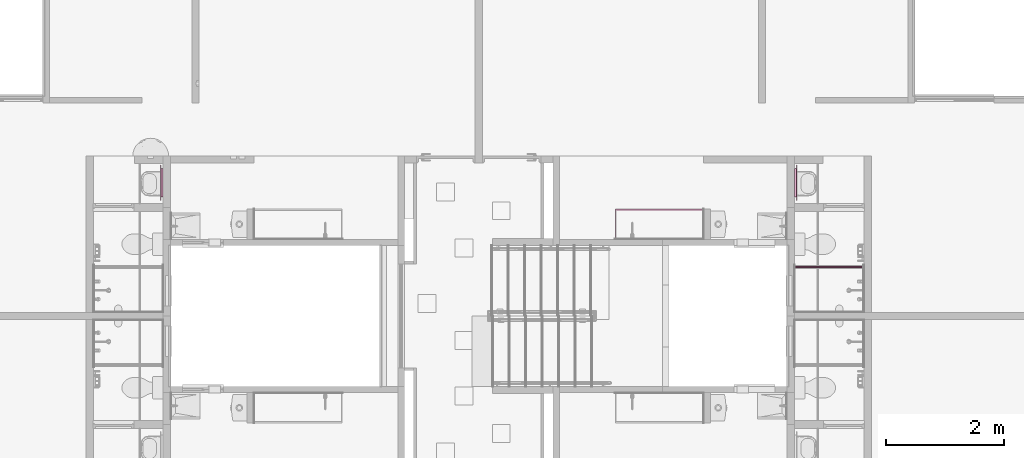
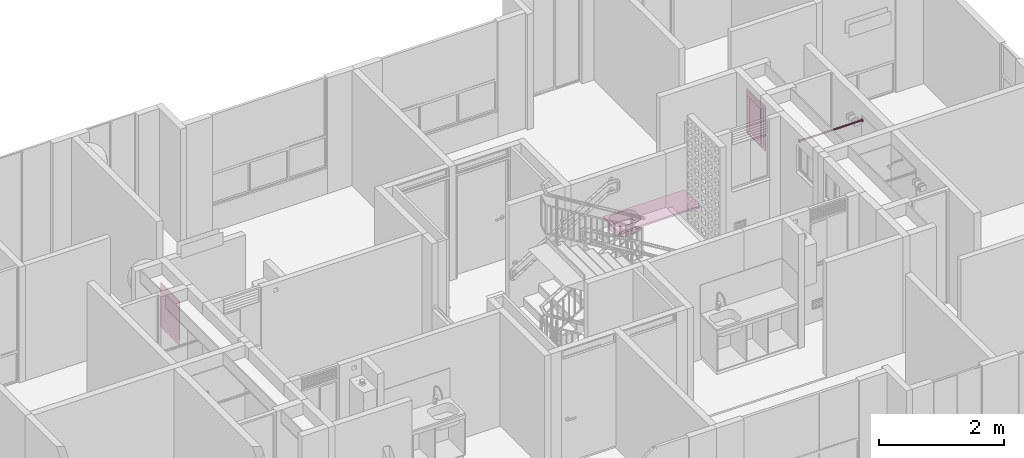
# One storey, part 46 of 51: 4 furniture elements.
"""IFC4 building model written with IfcOpenShell, lengths in metres."""

from ifc_helpers import new_model, entity, si_unit, converted_unit, derived_unit, direction, frame, origin, place, context, subcontext, project, spatial, arc, indexed_curve, outline, extrude, polygons, source, transform, mapped, material, constituent, constituent_set, type_object, type_shapes, element, save


model = new_model("IFC4")

# Units and contexts
model_context = context("Model", 3, precision=1e-05, world=origin(), true_north=direction((6.123031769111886e-17, 1.0)))
body_context = subcontext(model_context, "Body", "Model", "MODEL_VIEW")
ifc_project = project(units=[si_unit("LENGTHUNIT", "METRE"), si_unit("AREAUNIT", "SQUARE_METRE"), si_unit("VOLUMEUNIT", "CUBIC_METRE"), converted_unit("PLANEANGLEUNIT", "DEGREE", entity("IfcRatioMeasure", 0.017453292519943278), si_unit("PLANEANGLEUNIT", "RADIAN"), dimensions=[0, 0, 0, 0, 0, 0, 0]), si_unit("MASSUNIT", "GRAM", prefix="KILO"), derived_unit("MASSDENSITYUNIT", [(si_unit("MASSUNIT", "GRAM", prefix="KILO"), 1), (si_unit("LENGTHUNIT", "METRE"), -3)]), derived_unit("IONCONCENTRATIONUNIT", [(si_unit("MASSUNIT", "GRAM", prefix="KILO"), 1), (si_unit("LENGTHUNIT", "METRE"), -3)]), derived_unit("MOMENTOFINERTIAUNIT", [(si_unit("LENGTHUNIT", "METRE"), 4)]), si_unit("TIMEUNIT", "SECOND"), si_unit("FREQUENCYUNIT", "HERTZ"), si_unit("THERMODYNAMICTEMPERATUREUNIT", "DEGREE_CELSIUS"), derived_unit("THERMALTRANSMITTANCEUNIT", [(si_unit("MASSUNIT", "GRAM", prefix="KILO"), 1), (si_unit("THERMODYNAMICTEMPERATUREUNIT", "KELVIN"), -1), (si_unit("TIMEUNIT", "SECOND"), -3)]), derived_unit("THERMALCONDUCTANCEUNIT", [(si_unit("MASSUNIT", "GRAM", prefix="KILO"), 1), (si_unit("THERMODYNAMICTEMPERATUREUNIT", "KELVIN"), -1), (si_unit("TIMEUNIT", "SECOND"), -3), (si_unit("LENGTHUNIT", "METRE"), 1)]), derived_unit("VOLUMETRICFLOWRATEUNIT", [(si_unit("LENGTHUNIT", "METRE"), 3), (si_unit("TIMEUNIT", "SECOND"), -1)]), derived_unit("MASSFLOWRATEUNIT", [(si_unit("MASSUNIT", "GRAM", prefix="KILO"), 1), (si_unit("TIMEUNIT", "SECOND"), -1)]), derived_unit("ROTATIONALFREQUENCYUNIT", [(si_unit("TIMEUNIT", "SECOND"), -1)]), si_unit("ELECTRICCURRENTUNIT", "AMPERE"), si_unit("ELECTRICVOLTAGEUNIT", "VOLT"), si_unit("POWERUNIT", "WATT"), si_unit("FORCEUNIT", "NEWTON", prefix="KILO"), si_unit("ILLUMINANCEUNIT", "LUX"), si_unit("LUMINOUSFLUXUNIT", "LUMEN"), si_unit("LUMINOUSINTENSITYUNIT", "CANDELA"), derived_unit("USERDEFINED", [(si_unit("MASSUNIT", "GRAM", prefix="KILO"), -1), (si_unit("LENGTHUNIT", "METRE"), -2), (si_unit("TIMEUNIT", "SECOND"), 3), (si_unit("LUMINOUSFLUXUNIT", "LUMEN"), 1)]), derived_unit("USERDEFINED", [(si_unit("MASSUNIT", "GRAM", prefix="KILO"), 1), (si_unit("TIMEUNIT", "SECOND"), -3), (si_unit("LENGTHUNIT", "METRE"), 3), (si_unit("ELECTRICCURRENTUNIT", "AMPERE"), -2)]), derived_unit("SOUNDPOWERUNIT", [(si_unit("MASSUNIT", "GRAM", prefix="KILO"), 1), (si_unit("TIMEUNIT", "SECOND"), -3), (si_unit("LENGTHUNIT", "METRE"), 2)]), derived_unit("SOUNDPRESSUREUNIT", [(si_unit("MASSUNIT", "GRAM", prefix="KILO"), 1), (si_unit("LENGTHUNIT", "METRE"), -1), (si_unit("TIMEUNIT", "SECOND"), -2)]), derived_unit("LINEARVELOCITYUNIT", [(si_unit("LENGTHUNIT", "METRE"), 1), (si_unit("TIMEUNIT", "SECOND"), -1)]), si_unit("PRESSUREUNIT", "PASCAL"), derived_unit("USERDEFINED", [(si_unit("MASSUNIT", "GRAM", prefix="KILO"), 1), (si_unit("LENGTHUNIT", "METRE"), -2), (si_unit("TIMEUNIT", "SECOND"), -2)]), derived_unit("LINEARFORCEUNIT", [(si_unit("MASSUNIT", "GRAM", prefix="KILO"), 1), (si_unit("TIMEUNIT", "SECOND"), -2)]), derived_unit("PLANARFORCEUNIT", [(si_unit("MASSUNIT", "GRAM", prefix="KILO"), 1), (si_unit("LENGTHUNIT", "METRE"), -1), (si_unit("TIMEUNIT", "SECOND"), -2)]), derived_unit("SPECIFICHEATCAPACITYUNIT", [(si_unit("THERMODYNAMICTEMPERATUREUNIT", "KELVIN"), -1), (si_unit("LENGTHUNIT", "METRE"), 2), (si_unit("TIMEUNIT", "SECOND"), -2)]), derived_unit("HEATINGVALUEUNIT", [(si_unit("LENGTHUNIT", "METRE"), 2), (si_unit("TIMEUNIT", "SECOND"), -2)]), derived_unit("VAPORPERMEABILITYUNIT", [(si_unit("LENGTHUNIT", "METRE"), -1), (si_unit("TIMEUNIT", "SECOND"), 1)]), derived_unit("DYNAMICVISCOSITYUNIT", [(si_unit("MASSUNIT", "GRAM", prefix="KILO"), 1), (si_unit("TIMEUNIT", "SECOND"), -1), (si_unit("LENGTHUNIT", "METRE"), -1)]), derived_unit("THERMALEXPANSIONCOEFFICIENTUNIT", [(si_unit("THERMODYNAMICTEMPERATUREUNIT", "KELVIN"), -1)]), derived_unit("MODULUSOFELASTICITYUNIT", [(si_unit("MASSUNIT", "GRAM", prefix="KILO"), 1), (si_unit("LENGTHUNIT", "METRE"), -1), (si_unit("TIMEUNIT", "SECOND"), -2)]), derived_unit("ISOTHERMALMOISTURECAPACITYUNIT", [(si_unit("LENGTHUNIT", "METRE"), 3), (si_unit("MASSUNIT", "GRAM", prefix="KILO"), -1)]), derived_unit("MOISTUREDIFFUSIVITYUNIT", [(si_unit("TIMEUNIT", "SECOND"), -1), (si_unit("LENGTHUNIT", "METRE"), 2)])], contexts=[model_context])

# Site, building, storey
site_placement = place(None, origin())
site = spatial("IfcSite", under=ifc_project, at=site_placement, Name="Default", CompositionType="ELEMENT")
building_placement = place(site_placement, origin())
building = spatial("IfcBuilding", under=site, at=building_placement, CompositionType="ELEMENT")
storey_placement = place(building_placement, frame((0.0, 0.0, 2.350000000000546)))
storey = spatial("IfcBuildingStorey", under=building, at=storey_placement, Name="Nivel 2", CompositionType="ELEMENT", Elevation=2.350000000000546)

# Furniture
ifc_material_1 = material(Name="Aluminio", Category="Materials")
ifc_constituent_1 = constituent(ifc_material_1, Name="Aluminio", Category="Materials")
ifc_material_2 = material(Name="ESPEJO", Category="Materials")
ifc_constituent_2 = constituent(ifc_material_2, Name="ESPEJO", Category="Materials")
ifc_constituent_set_1 = constituent_set(constituents=[ifc_constituent_1, ifc_constituent_2])
ifc_constituent_3 = constituent(ifc_material_1, Name="Aluminio", Category="Materials")
ifc_constituent_4 = constituent(ifc_material_2, Name="ESPEJO", Category="Materials")
ifc_constituent_set_2 = constituent_set(constituents=[ifc_constituent_3, ifc_constituent_4])
furniture_type_1 = type_object("IfcFurnitureType", Name="E2050 - Espejo:E2050 - 0.60m x 0.87m - Espejo", AssemblyPlace="NOTDEFINED", PredefinedType="NOTDEFINED", material=ifc_constituent_set_2)
shared_shape_1 = source(origin(), body_context, "Body", "SweptSolid", [
    extrude(outline(indexed_curve([(-0.23999999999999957, -0.3749999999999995), (0.2399999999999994, -0.3749999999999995), (0.2399999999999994, 0.37499999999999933), (-0.23999999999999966, 0.3749999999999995), (-0.23999999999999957, -0.3749999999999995)], self_intersect=False), holes=[indexed_curve([(0.2149999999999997, -0.34999999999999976), (-0.21499999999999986, -0.34999999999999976), (-0.21499999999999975, 0.34999999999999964), (0.2149999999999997, 0.34999999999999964), (0.2149999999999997, -0.34999999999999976)], self_intersect=False)]), frame((0.12499999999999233, 0.062499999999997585, 1.485), z_axis=(0.0, 1.0, 0.0), x_axis=(1.0, 0.0, 0.0)), (0.0, 0.0, 1.0), 0.037500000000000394),
    extrude(outline(indexed_curve([(-0.00350000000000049, -0.30000000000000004), (0.00350000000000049, -0.30000000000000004), (0.00350000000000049, 0.30000000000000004), (-0.00350000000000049, 0.30000000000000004), (-0.00350000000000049, -0.30000000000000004)], self_intersect=False)), frame((0.1249999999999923, 0.10350000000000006, 1.05), z_axis=(0.0, 0.0, 1.0), x_axis=(0.0, 1.0, 0.0)), (0.0, 0.0, 1.0), 0.87),
])
type_shapes(furniture_type_1, [shared_shape_1])
furniture_1_placement = place(storey_placement, frame((14.620000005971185, -4.035000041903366, -0.020000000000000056), z_axis=(0.0, 0.0, 1.0), x_axis=(0.0, -1.0, 0.0)))
element("IfcFurniture", 1, at=furniture_1_placement, inside=storey, type_object=furniture_type_1, material=ifc_constituent_set_1, Name="E2050 - Espejo:E2050 - 0.60m x 0.87m - Espejo", ObjectType="E2050 - Espejo:E2050 - 0.60m x 0.87m - Espejo", PredefinedType="NOTDEFINED", context=body_context, shape_type="MappedRepresentation", body=[
    mapped(shared_shape_1, transform((0.0, 0.0, 0.0), scale=1.0)),
])
ifc_constituent_5 = constituent(ifc_material_1, Name="Aluminio", Category="Materials")
ifc_constituent_6 = constituent(ifc_material_2, Name="ESPEJO", Category="Materials")
ifc_constituent_set_3 = constituent_set(constituents=[ifc_constituent_5, ifc_constituent_6])
ifc_constituent_7 = constituent(ifc_material_1, Name="Aluminio", Category="Materials")
ifc_constituent_8 = constituent(ifc_material_2, Name="ESPEJO", Category="Materials")
ifc_constituent_set_4 = constituent_set(constituents=[ifc_constituent_7, ifc_constituent_8])
furniture_type_2 = type_object("IfcFurnitureType", Name="E2050 - Espejo:E2050 - 0.60m x 0.87m - Espejo", AssemblyPlace="NOTDEFINED", PredefinedType="NOTDEFINED", material=ifc_constituent_set_4)
shared_shape_2 = source(origin(), body_context, "Body", "SweptSolid", [
    extrude(outline(indexed_curve([(-0.3749999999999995, -0.2399999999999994), (0.37499999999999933, -0.23999999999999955), (0.3749999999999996, 0.2399999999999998), (-0.3749999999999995, 0.23999999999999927), (-0.3749999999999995, -0.2399999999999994)], self_intersect=False), holes=[indexed_curve([(-0.34999999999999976, 0.21499999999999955), (0.34999999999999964, 0.21499999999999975), (0.34999999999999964, -0.21499999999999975), (-0.34999999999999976, -0.21499999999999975), (-0.34999999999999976, 0.21499999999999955)], self_intersect=False)]), frame((0.12499999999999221, -0.09999999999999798, 1.485), z_axis=(0.0, 1.0, 0.0), x_axis=(0.0, 0.0, -1.0)), (0.0, 0.0, 1.0), 0.037500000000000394),
    extrude(outline(indexed_curve([(-0.30000000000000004, -0.00350000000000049), (0.30000000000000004, -0.00350000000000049), (0.30000000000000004, 0.00350000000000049), (-0.30000000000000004, 0.00350000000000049), (-0.30000000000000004, -0.00350000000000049)], self_intersect=False)), frame((0.1249999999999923, -0.10350000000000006, 1.05), z_axis=(0.0, 0.0, 1.0), x_axis=(-1.0, 0.0, 0.0)), (0.0, 0.0, 1.0), 0.87),
])
type_shapes(furniture_type_2, [shared_shape_2])
furniture_2_placement = place(storey_placement, frame((4.024999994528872, -4.035000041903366, -0.020000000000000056), z_axis=(0.0, 0.0, 1.0), x_axis=(0.0, -1.0, 0.0)))
element("IfcFurniture", 2, at=furniture_2_placement, inside=storey, type_object=furniture_type_2, material=ifc_constituent_set_3, Name="E2050 - Espejo:E2050 - 0.60m x 0.87m - Espejo", ObjectType="E2050 - Espejo:E2050 - 0.60m x 0.87m - Espejo", PredefinedType="NOTDEFINED", context=body_context, shape_type="MappedRepresentation", body=[
    mapped(shared_shape_2, transform((0.0, 0.0, 0.0), scale=1.0)),
])

# Space
space_1_placement = place(storey_placement, origin())
space_1 = spatial("IfcSpace", under=storey, at=space_1_placement, Name="419", CompositionType="ELEMENT", PredefinedType="SPACE")

# Furniture
ifc_material_3 = material(Name="<Unnamed>")
furniture_type_3 = type_object("IfcFurnitureType", Name="Barra baño:E2050- Barra Baño- Acero inoxidable", AssemblyPlace="NOTDEFINED", PredefinedType="NOTDEFINED", material=ifc_material_3)
shared_shape_3 = source(origin(), body_context, "Body", "SweptSolid", [
    extrude(outline(indexed_curve([(-0.025, 0.0), (-9.341026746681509e-17, -0.025), (0.025, 2.707167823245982e-16), (-1.316959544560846e-16, 0.025)], segments=[arc(1, 2, 3), arc(3, 4, 1)], self_intersect=False)), frame((-1.1599989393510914, 0.0, 1.8000000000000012), z_axis=(1.0, 0.0, 0.0), x_axis=(0.0, 1.0, 0.0)), (0.0, 0.0, 1.0), 0.005000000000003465),
    extrude(outline(indexed_curve([(-0.03, 0.0), (-1.1209232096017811e-16, -0.029999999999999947), (0.03, 2.707167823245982e-16), (-1.3138979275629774e-16, 0.029999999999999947)], segments=[arc(1, 2, 3), arc(3, 4, 1)], self_intersect=False)), frame((-1.164998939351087, 0.0, 1.8000000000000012), z_axis=(1.0, 0.0, 0.0), x_axis=(0.0, 1.0, 0.0)), (0.0, 0.0, 1.0), 0.0049999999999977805),
    extrude(outline(indexed_curve([(-0.0125, 0.0), (-4.6705133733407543e-17, -0.012499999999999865), (0.0125, 0.0), (7.654042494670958e-19, 0.012499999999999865)], segments=[arc(1, 2, 3), arc(3, 4, 1)], self_intersect=False)), frame((-1.1549989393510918, 0.0, 1.7999999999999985), z_axis=(1.0, 0.0, 0.0), x_axis=(0.0, 1.0, 0.0)), (0.0, 0.0, 1.0), 1.149998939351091),
    extrude(outline(indexed_curve([(-0.025, 0.0), (-2.2663703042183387e-16, -0.025), (0.025, 0.0), (1.5308084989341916e-18, 0.025)], segments=[arc(1, 2, 3), arc(3, 4, 1)], self_intersect=False)), frame((-0.005000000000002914, 0.0, 1.7999999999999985), z_axis=(1.0, 0.0, 0.0), x_axis=(0.0, 1.0, 0.0)), (0.0, 0.0, 1.0), 0.005000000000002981),
    extrude(outline(indexed_curve([(-0.03, 0.0), (-2.1867373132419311e-16, -0.029999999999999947), (0.03, 0.0), (1.8369701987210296e-18, 0.029999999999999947)], segments=[arc(1, 2, 3), arc(3, 4, 1)], self_intersect=False)), frame((0.0, 0.0, 1.7999999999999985), z_axis=(1.0, 0.0, 0.0), x_axis=(0.0, 1.0, 0.0)), (0.0, 0.0, 1.0), 0.00499999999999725),
])
type_shapes(furniture_type_3, [shared_shape_3])
furniture_3_placement = place(space_1_placement, frame((14.69250000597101, -5.590000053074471, 0.12999999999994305), z_axis=(0.0, 0.0, 1.0), x_axis=(-1.0, 0.0, 0.0)))
element("IfcFurniture", 3, at=furniture_3_placement, inside=space_1, type_object=furniture_type_3, material=ifc_material_3, Name="Barra baño:E2050- Barra Baño- Acero inoxidable", ObjectType="Barra baño:E2050- Barra Baño- Acero inoxidable", PredefinedType="NOTDEFINED", context=body_context, shape_type="MappedRepresentation", body=[
    mapped(shared_shape_3, transform((0.0, 0.0, 0.0), scale=1.0)),
])

# Space
space_2_placement = place(storey_placement, origin())
space_2 = spatial("IfcSpace", under=storey, at=space_2_placement, Name="422", CompositionType="ELEMENT", PredefinedType="SPACE")

# Furniture
ifc_material_4 = material(Name="Mesón cocina", Category="Materials")
furniture_type_4 = type_object("IfcFurnitureType", Name="E1060 - Meson Socoda Radiante - 1.50 X 0.52 - Acero inoxidable:E1060 - 1.50 x 0.52 - Meson de cocina, lavadero y estufa - Acero inoxidable", AssemblyPlace="NOTDEFINED", PredefinedType="NOTDEFINED", material=ifc_material_4)
shared_shape_4 = source(origin(), body_context, "Body", "Tessellation", [
    polygons([(0.7500000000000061, 0.2600000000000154, 0.03499999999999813), (-0.7499999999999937, 0.2600000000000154, 0.03499999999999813), (-0.7499999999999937, -0.2600000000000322, 0.03499999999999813), (0.7500000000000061, -0.2600000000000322, 0.03499999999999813), (0.23610399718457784, 0.03077661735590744, 0.03499999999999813), (0.23985215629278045, 0.05924671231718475, 0.03499999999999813), (0.2508412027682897, 0.08577661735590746, 0.03499999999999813), (0.2683222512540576, 0.10855836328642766, 0.03499999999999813), (0.2911039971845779, 0.1260394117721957, 0.03499999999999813), (0.31763390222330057, 0.13702845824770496, 0.03499999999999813), (0.3461039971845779, 0.1407766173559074, 0.03499999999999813), (0.593473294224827, 0.14077661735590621, 0.03499999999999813), (0.6219433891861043, 0.13702845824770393, 0.03499999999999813), (0.6484732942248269, 0.1260394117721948, 0.03499999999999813), (0.6712550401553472, 0.10855836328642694, 0.03499999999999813), (0.6887360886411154, 0.08577661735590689, 0.03499999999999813), (0.6997251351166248, 0.05924671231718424, 0.03499999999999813), (0.7034732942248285, 0.03077661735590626, 0.03499999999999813), (0.703473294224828, -0.11422338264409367, 0.03499999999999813), (0.6997251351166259, -0.14269347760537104, 0.03499999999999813), (0.6887360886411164, -0.1692233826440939, 0.03499999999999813), (0.6712550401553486, -0.1920051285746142, 0.03499999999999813), (0.6484732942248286, -0.20948617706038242, 0.03499999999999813), (0.6219433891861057, -0.22047522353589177, 0.03499999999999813), (0.5934732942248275, -0.22422338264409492, 0.03499999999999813), (0.3461039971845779, -0.22422338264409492, 0.03499999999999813), (0.31763390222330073, -0.22047522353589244, 0.03499999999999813), (0.2911039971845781, -0.20948617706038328, 0.03499999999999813), (0.2683222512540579, -0.1920051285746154, 0.03499999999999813), (0.2508412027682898, -0.1692233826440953, 0.03499999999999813), (0.23985215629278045, -0.14269347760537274, 0.03499999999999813), (0.23610399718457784, -0.11422338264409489, 0.03499999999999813), (0.7500000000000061, 0.2600000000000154, -1.8678232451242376e-15), (0.7500000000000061, -0.2600000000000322, -1.8678232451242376e-15), (-0.7499999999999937, -0.2600000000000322, -1.8678232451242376e-15), (-0.7499999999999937, 0.2600000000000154, -1.8678232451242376e-15), (0.5934732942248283, 0.1507766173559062, -1.8678232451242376e-15), (0.34610399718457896, 0.1507766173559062, -1.8678232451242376e-15), (0.31504571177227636, 0.1466877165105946, -1.8678232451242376e-15), (0.2861039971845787, 0.13469966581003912, -1.8678232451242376e-15), (0.2612511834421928, 0.11562943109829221, -1.8678232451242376e-15), (0.2421809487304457, 0.09077661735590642, -1.8678232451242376e-15), (0.23019289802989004, 0.06183490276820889, -1.8678232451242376e-15), (0.22610399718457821, 0.030776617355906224, -1.8678232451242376e-15), (0.22610399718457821, -0.11422338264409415, -1.8678232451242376e-15), (0.2301928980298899, -0.14528166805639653, -1.8678232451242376e-15), (0.24218094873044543, -0.17422338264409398, -1.8678232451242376e-15), (0.2612511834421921, -0.19907619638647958, -1.8678232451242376e-15), (0.2861039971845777, -0.2181464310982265, -1.8678232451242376e-15), (0.31504571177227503, -0.2301344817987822, -1.8678232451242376e-15), (0.3461039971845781, -0.23422338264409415, -1.8678232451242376e-15), (0.5934732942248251, -0.23422338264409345, -1.8678232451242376e-15), (0.6245315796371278, -0.2301344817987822, -1.8678232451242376e-15), (0.6534732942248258, -0.21814643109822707, -1.8678232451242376e-15), (0.6783261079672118, -0.19907619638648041, -1.8678232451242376e-15), (0.6973963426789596, -0.17422338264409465, -1.8678232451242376e-15), (0.7093843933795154, -0.14528166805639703, -1.8678232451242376e-15), (0.7134732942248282, -0.11422338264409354, -1.8678232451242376e-15), (0.7134732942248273, 0.030776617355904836, -1.8678232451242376e-15), (0.7093843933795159, 0.061834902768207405, -1.8678232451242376e-15), (0.6973963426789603, 0.09077661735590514, -1.8678232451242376e-15), (0.6783261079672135, 0.11562943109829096, -1.8678232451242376e-15), (0.6534732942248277, 0.13469966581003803, -1.8678232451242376e-15), (0.62453157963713, 0.1466877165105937, -1.8678232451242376e-15), (0.5934732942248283, 0.15077661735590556, -0.16000000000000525), (0.6245315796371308, 0.1466877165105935, -0.16000000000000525), (0.6534732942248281, 0.13469966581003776, -0.16000000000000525), (0.6783261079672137, 0.1156294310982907, -0.16000000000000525), (0.6973963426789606, 0.0907766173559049, -0.16000000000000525), (0.7093843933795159, 0.06183490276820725, -0.16000000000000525), (0.7134732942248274, 0.030776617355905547, -0.16000000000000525), (0.7134732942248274, -0.11422338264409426, -0.16000000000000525), (0.7093843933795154, -0.1452816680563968, -0.16000000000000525), (0.6973963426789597, -0.1742233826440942, -0.16000000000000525), (0.6783261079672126, -0.19907619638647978, -0.16000000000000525), (0.6534732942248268, -0.21814643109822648, -0.16000000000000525), (0.6245315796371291, -0.2301344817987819, -0.16000000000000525), (0.5934732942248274, -0.2342233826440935, -0.16000000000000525), (0.3461039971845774, -0.23422338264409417, -0.16000000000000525), (0.3150457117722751, -0.23013448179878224, -0.16000000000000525), (0.28610399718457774, -0.21814643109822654, -0.16000000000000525), (0.26125118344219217, -0.19907619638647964, -0.16000000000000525), (0.24218094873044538, -0.17422338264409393, -0.16000000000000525), (0.2301928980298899, -0.14528166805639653, -0.16000000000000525), (0.22610399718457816, -0.11422338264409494, -0.16000000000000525), (0.22610399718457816, 0.030776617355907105, -0.16000000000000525), (0.23019289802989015, 0.06183490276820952, -0.16000000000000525), (0.2421809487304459, 0.09077661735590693, -0.16000000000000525), (0.261251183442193, 0.11562943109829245, -0.16000000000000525), (0.2861039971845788, 0.13469966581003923, -0.16000000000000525), (0.31504571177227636, 0.1466877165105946, -0.16000000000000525), (0.3461039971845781, 0.1507766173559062, -0.16000000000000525), (0.3461039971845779, 0.14077661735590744, -0.14475899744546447), (0.31763390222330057, 0.13702845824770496, -0.14475899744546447), (0.2911039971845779, 0.1260394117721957, -0.14475899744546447), (0.2683222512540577, 0.10855836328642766, -0.14475899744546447), (0.25084120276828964, 0.08577661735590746, -0.14475899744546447), (0.2398521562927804, 0.05924671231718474, -0.14475899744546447), (0.23610399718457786, 0.03077661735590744, -0.14475899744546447), (0.23610399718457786, -0.11422338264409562, -0.14475899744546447), (0.23985215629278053, -0.14269347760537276, -0.14475899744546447), (0.25084120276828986, -0.16922338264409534, -0.14475899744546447), (0.2683222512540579, -0.19200512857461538, -0.14475899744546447), (0.2911039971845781, -0.20948617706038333, -0.14475899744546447), (0.31763390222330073, -0.22047522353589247, -0.14475899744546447), (0.3461039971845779, -0.2242233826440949, -0.14475899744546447), (0.5934732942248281, -0.22422338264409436, -0.14475899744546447), (0.6219433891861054, -0.22047522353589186, -0.14475899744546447), (0.6484732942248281, -0.20948617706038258, -0.14475899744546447), (0.6712550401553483, -0.19200512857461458, -0.14475899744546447), (0.6887360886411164, -0.16922338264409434, -0.14475899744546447), (0.6997251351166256, -0.14269347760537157, -0.14475899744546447), (0.7034732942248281, -0.11422338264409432, -0.14475899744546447), (0.7034732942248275, 0.030776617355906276, -0.14475899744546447), (0.699725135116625, 0.05924671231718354, -0.14475899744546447), (0.6887360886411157, 0.08577661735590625, -0.14475899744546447), (0.6712550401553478, 0.10855836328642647, -0.14475899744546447), (0.6484732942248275, 0.1260394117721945, -0.14475899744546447), (0.6219433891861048, 0.13702845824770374, -0.14475899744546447), (0.5934732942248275, 0.14077661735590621, -0.14475899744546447)], [[[1, 2, 3, 4], [17, 18, 19, 20, 21, 22, 23, 24, 25, 26, 27, 28, 29, 30, 31, 32, 5, 6, 7, 8, 9, 10, 11, 12, 13, 14, 15, 16]], [[118, 119, 120, 93, 94, 95, 96, 97, 98, 99, 100, 101, 102, 103, 104, 105, 106, 107, 108, 109, 110, 111, 112, 113, 114, 115, 116, 117]], [[36, 33, 34, 35], [43, 44, 45, 46, 47, 48, 49, 50, 51, 52, 53, 54, 55, 56, 57, 58, 59, 60, 61, 62, 63, 64, 37, 38, 39, 40, 41, 42]], [[89, 90, 91, 92, 65, 66, 67, 68, 69, 70, 71, 72, 73, 74, 75, 76, 77, 78, 79, 80, 81, 82, 83, 84, 85, 86, 87, 88]], [[2, 1, 33, 36]], [[38, 37, 65, 92]], [[106, 26, 25, 107]], [[3, 2, 36, 35]], [[45, 44, 86, 85]], [[114, 113, 19, 18]], [[4, 3, 35, 34]], [[52, 51, 79, 78]], [[120, 12, 11, 93]], [[1, 4, 34, 33]], [[59, 58, 72, 71]], [[99, 5, 32, 100]], [[39, 91, 90, 40]], [[109, 108, 24, 23]], [[40, 90, 89, 41]], [[110, 109, 23, 22]], [[92, 91, 39, 38]], [[25, 24, 108, 107]], [[42, 88, 87, 43]], [[112, 111, 21, 20]], [[43, 87, 86, 44]], [[113, 112, 20, 19]], [[41, 89, 88, 42]], [[21, 111, 110, 22]], [[46, 84, 83, 47]], [[17, 16, 116, 115]], [[47, 83, 82, 48]], [[16, 15, 117, 116]], [[85, 84, 46, 45]], [[115, 114, 18, 17]], [[49, 81, 80, 50]], [[119, 118, 14, 13]], [[50, 80, 79, 51]], [[120, 119, 13, 12]], [[48, 82, 81, 49]], [[14, 118, 117, 15]], [[53, 77, 76, 54]], [[95, 94, 10, 9]], [[54, 76, 75, 55]], [[96, 95, 9, 8]], [[78, 77, 53, 52]], [[11, 10, 94, 93]], [[56, 74, 73, 57]], [[98, 97, 7, 6]], [[57, 73, 72, 58]], [[99, 98, 6, 5]], [[55, 75, 74, 56]], [[7, 97, 96, 8]], [[60, 70, 69, 61]], [[102, 101, 31, 30]], [[61, 69, 68, 62]], [[103, 102, 30, 29]], [[71, 70, 60, 59]], [[32, 31, 101, 100]], [[63, 67, 66, 64]], [[105, 104, 28, 27]], [[64, 66, 65, 37]], [[106, 105, 27, 26]], [[62, 68, 67, 63]], [[28, 104, 103, 29]]], closed=True),
])
type_shapes(furniture_type_4, [shared_shape_4])
furniture_4_placement = place(space_2_placement, frame((12.392500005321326, -4.865000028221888, 0.8950000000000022), z_axis=(0.0, 0.0, 1.0), x_axis=(-1.0, 0.0, 0.0)))
element("IfcFurniture", 4, at=furniture_4_placement, inside=space_2, type_object=furniture_type_4, material=ifc_material_4, Name="E1060 - Meson Socoda Radiante - 1.50 X 0.52 - Acero inoxidable:E1060 - 1.50 x 0.52 - Meson de cocina, lavadero y estufa - Acero inoxidable", ObjectType="E1060 - Meson Socoda Radiante - 1.50 X 0.52 - Acero inoxidable:E1060 - 1.50 x 0.52 - Meson de cocina, lavadero y estufa - Acero inoxidable", PredefinedType="NOTDEFINED", context=body_context, shape_type="MappedRepresentation", body=[
    mapped(shared_shape_4, transform((0.0, 0.0, 0.0), scale=1.0)),
])

save(model, "model.ifc")
